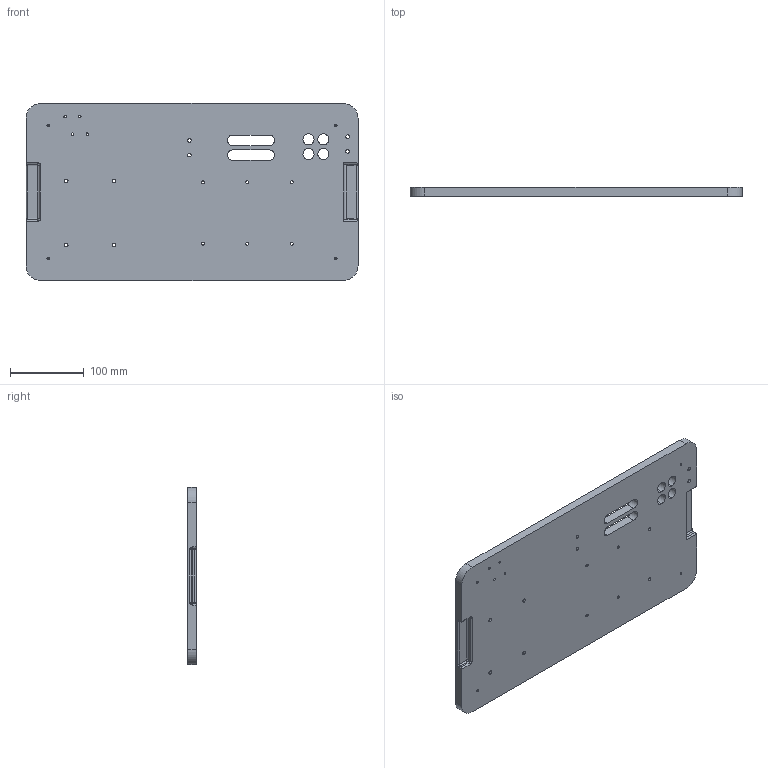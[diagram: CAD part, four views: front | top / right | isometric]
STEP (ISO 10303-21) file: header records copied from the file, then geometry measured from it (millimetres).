
FILE_DESCRIPTION (( 'STEP AP214' ), '1' );
FILE_NAME ('GZ29.01_V1底板.STEP', '2021-05-06T05:42:49', ( '微软中国' ), ( 'Microsoft' ), 'SwSTEP 2.0', 'SolidWorks 2017', '' );
FILE_SCHEMA (( 'AUTOMOTIVE_DESIGN' ));
Length unit declared in the file: millimetre
Products named in the file (1): GZ29.01_V1菁啣
Bounding box: 450 x 12 x 240 mm (x, y, z)
Volume: 1212319.1 mm3; surface area: 237635.2 mm2
Topology: 1 solids, 1 shells, 561 faces, 1546 edges, 1014 vertices
Faces by surface type: plane 361, bspline 100, cylinder 84, cone 8, torus 6, sphere 2
Entity records: 27522 total; most frequent: CARTESIAN_POINT 8572, ORIENTED_EDGE 3072, DIRECTION 2410, EDGE_CURVE 1536, VECTOR 1170, LINE 1170, VERTEX_POINT 1014, EDGE_LOOP 646
